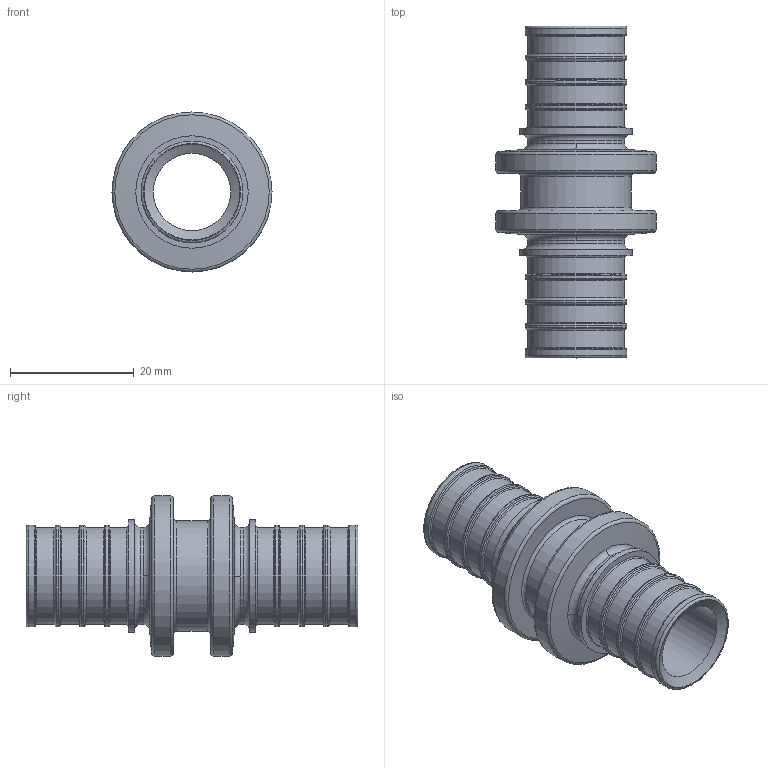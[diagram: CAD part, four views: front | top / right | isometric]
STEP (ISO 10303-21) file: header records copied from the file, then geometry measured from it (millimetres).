
FILE_DESCRIPTION(('STEP AP203'), '1');
FILE_NAME('ÂÐ.716641.004 - VTm.403.G.002020 Ôèò. íàäâ. ïð', '2024-01-23T11:01:39', ('IT'), ('VESTA'), 'C3D Converter', 'C3D Toolkit', '');
FILE_SCHEMA(('CONFIG_CONTROL_DESIGN'));
Length unit declared in the file: millimetre
Products named in the file (1): ВР.716641.004
Bounding box: 25.9 x 53.7 x 25.9 mm (x, y, z)
Volume: 6887.3 mm3; surface area: 6608.7 mm2
Topology: 1 solids, 1 shells, 80 faces, 154 edges, 82 vertices
Faces by surface type: torus 44, cylinder 24, plane 8, cone 4
Full cylindrical faces by diameter (mm): 12.5 x1, 15.7 x10, 16.5 x8, 17.9 x1, 18.2 x2, 25.9 x2
Entity records: 1683 total; most frequent: DIRECTION 334, CARTESIAN_POINT 249, ORIENTED_EDGE 172, AXIS2_PLACEMENT_3D 167, EDGE_LOOP 156, FACE_OUTER_BOUND 132, EDGE_CURVE 86, CIRCLE 86
